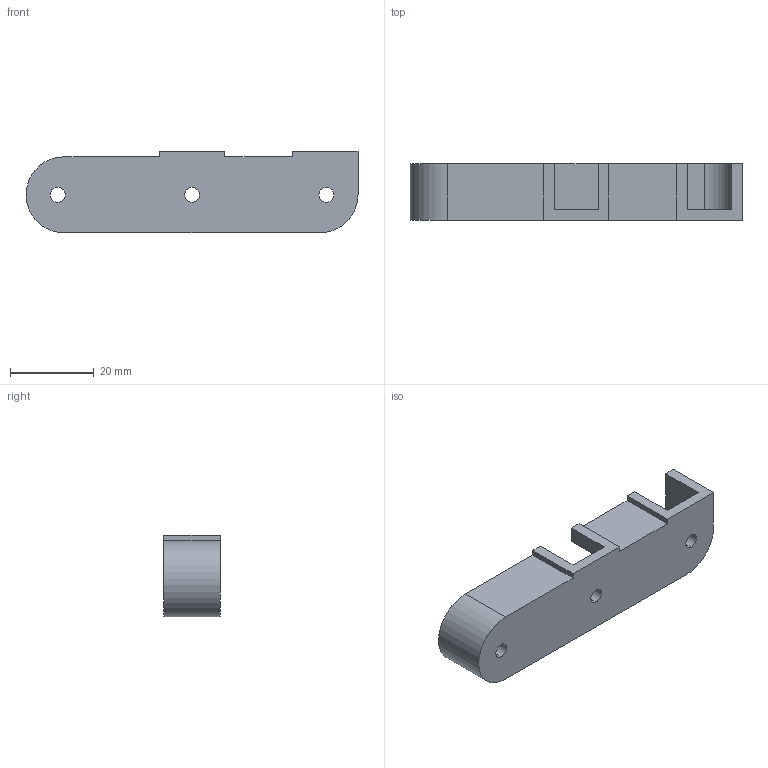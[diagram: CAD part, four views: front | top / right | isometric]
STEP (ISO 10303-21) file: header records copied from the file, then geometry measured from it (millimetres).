
FILE_DESCRIPTION (( 'STEP AP214' ), '1' );
FILE_NAME ('5030_V01_POCKET_SEMI-OPEN_DBL_CLIP_SER.STEP', '2025-06-19T15:49:48', ( '' ), ( '' ), 'SwSTEP 2.0', 'SolidWorks 2025', '' );
FILE_SCHEMA (( 'AUTOMOTIVE_DESIGN' ));
Length unit declared in the file: inch
Products named in the file (1): 5030_V01_POCKET_SEMI-OPEN_DBL_CLIP_SER
Bounding box: 79.08 x 13.54 x 19.42 mm (x, y, z)
Volume: 7956.1 mm3; surface area: 6939 mm2
Topology: 1 solids, 1 shells, 30 faces, 84 edges, 56 vertices
Faces by surface type: plane 20, cylinder 10
Entity records: 1007 total; most frequent: CARTESIAN_POINT 171, ORIENTED_EDGE 168, DIRECTION 166, EDGE_CURVE 84, LINE 64, VECTOR 64, VERTEX_POINT 56, AXIS2_PLACEMENT_3D 51
